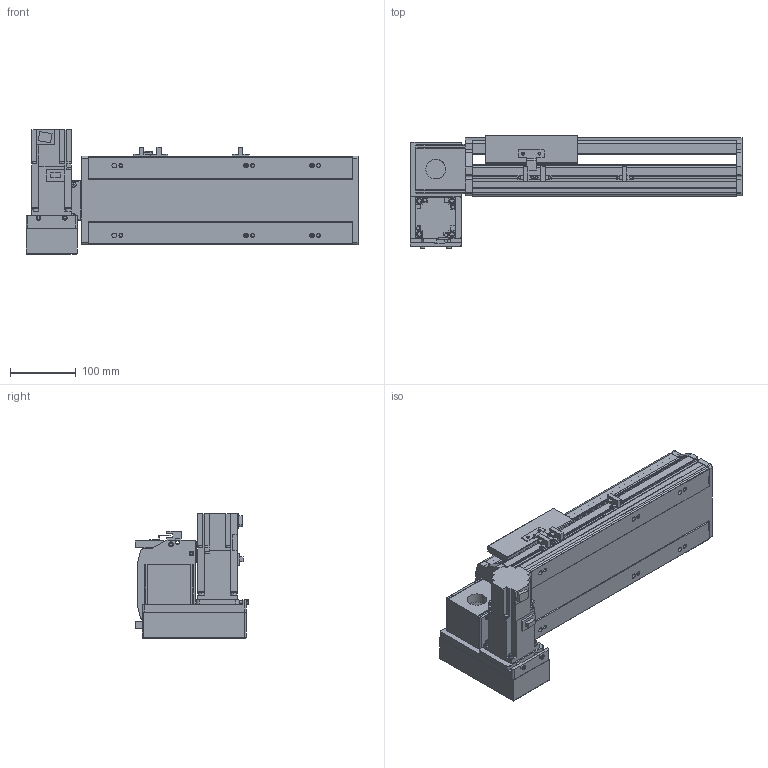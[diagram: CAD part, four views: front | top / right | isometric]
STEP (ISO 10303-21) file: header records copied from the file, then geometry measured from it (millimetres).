
FILE_DESCRIPTION(/* description */ ('STEP AP214'),/* implementation_level */ '2;1');
FILE_NAME(/* name */ 'PBS140S-P40-S150-LD-T40-C1-N(0)',/* time_stamp */ '2022-06-09T02:23:36+02:00',/* author */ ('License CC BY-ND 4.0'),/* organization */ ('CADENAS'),/* preprocessor_version */ 'ST-DEVELOPER v18.102',/* originating_system */ 'PARTsolutions',/* authorisation */ ' ');
FILE_SCHEMA (('AUTOMOTIVE_DESIGN {1 0 10303 214 3 1 1}'));
Length unit declared in the file: millimetre
Products named in the file (7): PBS140S-P40-S150-LD-T40-C1-N(0); PBS140S_sensor; PBS140S_plant; PBS140S_sliser; T40-p1; PBS140ST-LD_motors; PBS140S-S150()_body
Assembly tree (8 placements, depth 2):
  PBS140S-P40-S150-LD-T40-C1-N(0)
    PBS140S_sensor  x3
    PBS140S_plant
    PBS140S_sliser
    T40-p1
    PBS140ST-LD_motors
    PBS140S-S150()_body
Bounding box: 504 x 172.5 x 189.7 mm (x, y, z)
Volume: 3168301.3 mm3; surface area: 585912.2 mm2
Topology: 8 solids, 8 shells, 1019 faces, 2711 edges, 1775 vertices
Faces by surface type: plane 672, cylinder 305, cone 32, sphere 8, torus 2
Full cylindrical faces by diameter (mm): 3.242 x4, 4 x2, 4.134 x4, 4.4 x8, 4.5 x2, 4.8 x4, 4.917 x14, 5.5 x7, 6 x2, 7 x8, 7.5 x8, 8 x12, 8.5 x4, 10.5 x6, 14 x1, 30 x2, 50 x2
Entity records: 29206 total; most frequent: CARTESIAN_POINT 5256, DIRECTION 4998, ORIENTED_EDGE 4762, EDGE_CURVE 2381, AXIS2_PLACEMENT_3D 1709, VERTEX_POINT 1633, LINE 1580, VECTOR 1580
